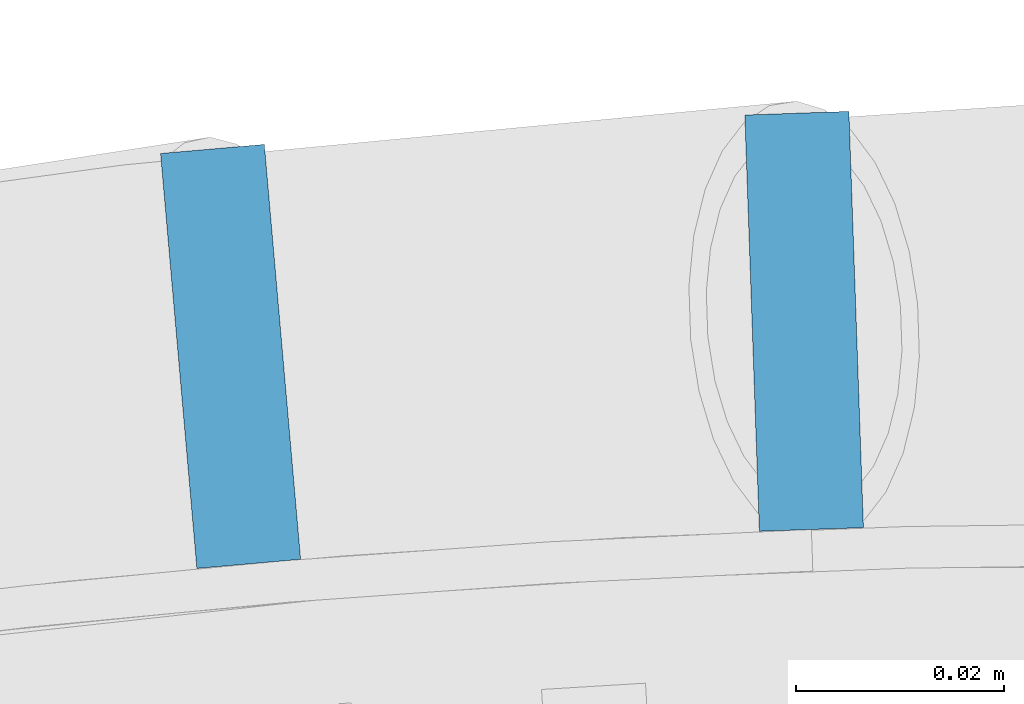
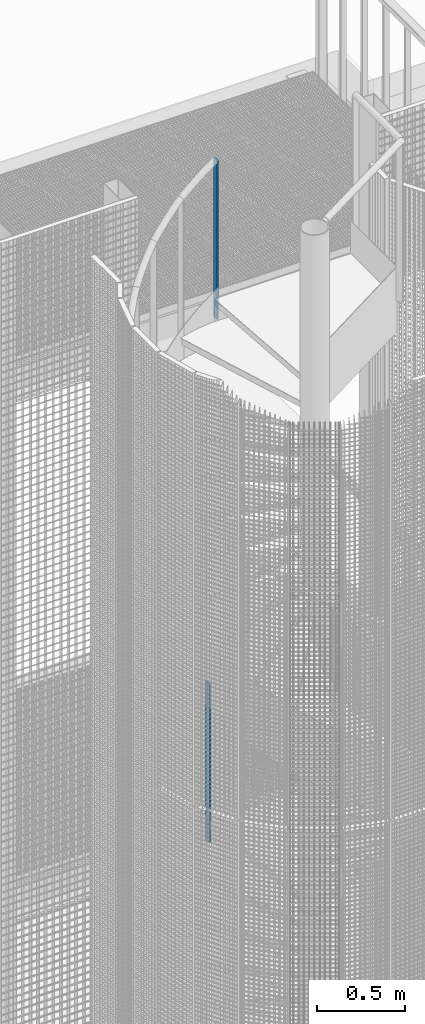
# One storey, part 63 of 1148: 2 columns, 2 elements without a shape of their own.
"""IFC2X3 building model written with IfcOpenShell, lengths in millimetres."""

import ifcopenshell
import ifcopenshell.guid

model = None  # the IFC model being written
_history = None  # IfcOwnerHistory: only IFC2X3 demands one
_inside = {}  # id of a spatial element -> (the spatial element, [elements in it])
_under = {}  # id of a project, library or spatial element -> (it, [spatial elements below it])
_declared = {}  # id of a project -> (the project, [libraries it declares])
_typed = {}  # id of a type object -> (the type object, [elements of that type])
_made_of = {}  # id of a material, layer set ... -> (it, [elements and type objects made of it])


def new_model(schema):
    """Start an empty IFC model of exactly this schema.

    Asked for "IFC4X3", IfcOpenShell would pick the latest addendum, in which some entities
    have other attributes; the version numbers below select the first issue.
    IFC2X3 requires an IfcOwnerHistory on every rooted entity: one is made here for all.
    """
    global model, _history
    if schema == "IFC4X3":
        model = ifcopenshell.file(schema_version=(4, 3, 0, 0))
    else:
        model = ifcopenshell.file(schema=schema)
    _inside.clear()
    _under.clear()
    _declared.clear()
    _typed.clear()
    _made_of.clear()
    _history = None
    if model.schema == "IFC2X3":
        org = make("IfcOrganization", Name="unknown")
        user = make(
            "IfcPersonAndOrganization",
            ThePerson=make("IfcPerson", FamilyName="unknown"),
            TheOrganization=org,
        )
        app = make(
            "IfcApplication",
            ApplicationDeveloper=org,
            Version="unknown",
            ApplicationFullName="unknown",
            ApplicationIdentifier="unknown",
        )
        _history = make(
            "IfcOwnerHistory",
            OwningUser=user,
            OwningApplication=app,
            ChangeAction="ADDED",
            CreationDate=0,
        )
    return model


def make(cls, **values):
    """One entity of the class cls with the attributes given. An attribute that is None is left unset."""
    return model.create_entity(
        cls, **{name: value for name, value in values.items() if value is not None}
    )


def rooted(cls, **values):
    """An entity with a GlobalId (a new one), such as an element, a storey or a relation."""
    return make(cls, GlobalId=ifcopenshell.guid.new(), OwnerHistory=_history, **values)


def si_unit(unit_type, name, prefix=None):
    """IfcSIUnit, for example si_unit("LENGTHUNIT", "METRE", prefix="MILLI")."""
    return make("IfcSIUnit", UnitType=unit_type, Prefix=prefix, Name=name)


def assignment(units):
    """IfcUnitAssignment: the units of a project."""
    return None if units is None else make("IfcUnitAssignment", Units=units)


def point(xyz):
    """IfcCartesianPoint."""
    return None if xyz is None else make("IfcCartesianPoint", Coordinates=xyz)


def direction(xyz):
    """IfcDirection."""
    return None if xyz is None else make("IfcDirection", DirectionRatios=xyz)


def frame(location, z_axis=None, x_axis=None):
    """IfcAxis2Placement3D, a coordinate frame: its origin and axes. An axis left out is left unset."""
    return make(
        "IfcAxis2Placement3D",
        Location=point(location),
        Axis=direction(z_axis),
        RefDirection=direction(x_axis),
    )


def frame_2d(location, x_axis=None):
    """IfcAxis2Placement2D, a coordinate frame in the plane: its origin and x axis."""
    return make(
        "IfcAxis2Placement2D", Location=point(location), RefDirection=direction(x_axis)
    )


def origin_with_axes():
    """The frame at (0, 0, 0) with the z axis (0, 0, 1) and the x axis (1, 0, 0) written out."""
    return frame((0.0, 0.0, 0.0), z_axis=(0.0, 0.0, 1.0), x_axis=(1.0, 0.0, 0.0))


def origin_2d_with_axis():
    """The frame at (0, 0) in the plane with the x axis (1, 0) written out."""
    return frame_2d((0.0, 0.0), x_axis=(1.0, 0.0))


def place(relative_to, where):
    """IfcLocalPlacement: puts the frame where relative to a parent placement (None: the world)."""
    return make(
        "IfcLocalPlacement", PlacementRelTo=relative_to, RelativePlacement=where
    )


def context(
    kind, dimensions, precision=None, world=None, true_north=None, identifier=None
):
    """IfcGeometricRepresentationContext, for example the 3D "Model" context."""
    return make(
        "IfcGeometricRepresentationContext",
        ContextIdentifier=identifier,
        ContextType=kind,
        CoordinateSpaceDimension=dimensions,
        Precision=precision,
        WorldCoordinateSystem=world,
        TrueNorth=true_north,
    )


def subcontext(parent, identifier, kind, view, scale=None):
    """IfcGeometricRepresentationSubContext, for example "Body" below "Model"."""
    return make(
        "IfcGeometricRepresentationSubContext",
        ContextIdentifier=identifier,
        ContextType=kind,
        ParentContext=parent,
        TargetScale=scale,
        TargetView=view,
    )


def project(units=None, contexts=None):
    """IfcProject with its units and contexts."""
    return rooted(
        "IfcProject",
        Name="project",
        RepresentationContexts=contexts,
        UnitsInContext=assignment(units),
    )


def spatial(cls, under=None, at=None, **own):
    """A site, building, storey or space (cls), placed at a placement, below another one or the project."""
    s = rooted(cls, ObjectPlacement=at, **own)
    if under is not None:
        _under.setdefault(under.id(), (under, []))[1].append(s)
    return s


def profile(cls, at=None, kind="AREA", **sizes):
    """A parametric profile (cls). Its sizes go by their IFC names, for example OverallWidth=200.0."""
    return make(cls, ProfileType=kind, Position=at, **sizes)


def rectangle(**sizes):
    """IfcRectangleProfileDef."""
    return profile("IfcRectangleProfileDef", **sizes)


def extrude(swept, where, along, depth):
    """IfcExtrudedAreaSolid: the profile swept, set in the frame where, extruded along a direction by depth."""
    return make(
        "IfcExtrudedAreaSolid",
        SweptArea=swept,
        Position=where,
        ExtrudedDirection=direction(along),
        Depth=depth,
    )


def shape(context_of_items, identifier, shape_type, items):
    """IfcShapeRepresentation: the items that make up one representation, for example the "Body"."""
    return make(
        "IfcShapeRepresentation",
        ContextOfItems=context_of_items,
        RepresentationIdentifier=identifier,
        RepresentationType=shape_type,
        Items=items,
    )


def material(Name=None, Category=None):
    """IfcMaterial."""
    return make("IfcMaterial", Name=Name, Category=Category)


def made_of(thing, what):
    """Note that an element or type object is made of a material, layer set ...; save() writes the relation."""
    if what is not None:
        _made_of.setdefault(what.id(), (what, []))[1].append(thing)
    return thing


def type_object(cls, material=None, **own):
    """A type object (cls), such as IfcWallType, which elements share."""
    return made_of(rooted(cls, **own), material)


def element(
    cls,
    number,
    at=None,
    inside=None,
    cuts=None,
    type_object=None,
    material=None,
    context=None,
    identifier="Body",
    shape_type=None,
    held_by="IfcProductDefinitionShape",
    body=None,
    shapes=None,
    **own,
):
    """One element of the class cls, such as IfcWall. Its Tag is "e" and its number.

    at: its placement. inside: the storey or other place that contains it. cuts: it is an
    opening in that element (IfcRelVoidsElement). A single representation is given by context,
    identifier, shape_type and body (its items); several are given by shapes. held_by: the class
    of the entity that holds the representations. save() writes the other relations.
    """
    e = rooted(cls, Tag="e%d" % number, ObjectPlacement=at, **own)
    if body is not None:
        shapes = [shape(context, identifier, shape_type, body)]
    if shapes is not None:
        e.Representation = make(held_by, Representations=shapes)
    if inside is not None:
        _inside.setdefault(inside.id(), (inside, []))[1].append(e)
    if cuts is not None:
        rooted(
            "IfcRelVoidsElement", RelatingBuildingElement=cuts, RelatedOpeningElement=e
        )
    if type_object is not None:
        _typed.setdefault(type_object.id(), (type_object, []))[1].append(e)
    return made_of(e, material)


def aggregate(whole, parts):
    """IfcRelAggregates: a whole, such as a stair, and the parts it consists of."""
    return rooted("IfcRelAggregates", RelatingObject=whole, RelatedObjects=parts)


def save(model, path):
    """Write the relations noted so far, then the file.

    IfcRelAggregates (storeys below a building ...), IfcRelContainedInSpatialStructure (elements
    in a storey), IfcRelDefinesByType, IfcRelAssociatesMaterial and IfcRelDeclares: one each for
    every whole, place, type object, material and project.
    """
    for whole, parts in _under.values():
        aggregate(whole, parts)
    for where, things in _inside.values():
        rooted(
            "IfcRelContainedInSpatialStructure",
            RelatedElements=things,
            RelatingStructure=where,
        )
    for kind, things in _typed.values():
        rooted("IfcRelDefinesByType", RelatedObjects=things, RelatingType=kind)
    for what, things in _made_of.values():
        rooted("IfcRelAssociatesMaterial", RelatedObjects=things, RelatingMaterial=what)
    for by, libraries in _declared.values():
        rooted("IfcRelDeclares", RelatingContext=by, RelatedDefinitions=libraries)
    model.write(path)


model = new_model("IFC2X3")

# Units and contexts
model_context = context("Model", 3, precision=1e-05, world=origin_with_axes())
body_context = subcontext(model_context, "Body", "Model", "MODEL_VIEW")
ifc_project = project(units=[si_unit("LENGTHUNIT", "METRE", prefix="MILLI"), si_unit("AREAUNIT", "SQUARE_METRE"), si_unit("VOLUMEUNIT", "CUBIC_METRE"), si_unit("MASSUNIT", "GRAM", prefix="KILO"), si_unit("TIMEUNIT", "SECOND"), si_unit("PLANEANGLEUNIT", "RADIAN"), si_unit("SOLIDANGLEUNIT", "STERADIAN"), si_unit("THERMODYNAMICTEMPERATUREUNIT", "DEGREE_CELSIUS"), si_unit("LUMINOUSINTENSITYUNIT", "LUMEN")], contexts=[model_context])

# Site, building, storey
site_placement = place(None, origin_with_axes())
site = spatial("IfcSite", under=ifc_project, at=site_placement, Name="Undefined", CompositionType="ELEMENT")
building_placement = place(site_placement, origin_with_axes())
building = spatial("IfcBuilding", under=site, at=building_placement, Name="Undefined", CompositionType="ELEMENT")
storey_placement = place(building_placement, origin_with_axes())
storey = spatial("IfcBuildingStorey", under=building, at=storey_placement, Name="Undefined", CompositionType="ELEMENT", Elevation=0.0)

# Assembly, column
assembly_1_placement = place(storey_placement, origin_with_axes())
assembly_1 = element("IfcElementAssembly", 1, at=assembly_1_placement, inside=storey, Name="MONTANT", AssemblyPlace="NOTDEFINED", PredefinedType="NOTDEFINED")
ifc_material = material(Name="STEEL/S235JR")
column_type = type_object("IfcColumnType", Name="PL10*40", PredefinedType="NOTDEFINED")
column_1_placement = place(assembly_1_placement, frame((21563.2159304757, 1053.35793167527, 17133.44), z_axis=(0.0, 0.0, 1.0), x_axis=(0.0348994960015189, -0.999390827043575, 0.0)))
column_1 = element("IfcColumn", 2, at=column_1_placement, type_object=column_type, material=ifc_material, Name="MONTANT", context=body_context, shape_type="SweptSolid", body=[
    extrude(rectangle(XDim=10.0, YDim=40.0, at=origin_2d_with_axis()), frame((0.0, 0.0, 1100.0), z_axis=(0.0, 0.0, -1.0), x_axis=(0.0, 1.0, 0.0)), (0.0, 0.0, 1.0), 1100.0),
])
aggregate(assembly_1, [column_1])

assembly_2_placement = place(storey_placement, origin_with_axes())
assembly_2 = element("IfcElementAssembly", 3, at=assembly_2_placement, inside=storey, Name="MONTANT", AssemblyPlace="NOTDEFINED", PredefinedType="NOTDEFINED")
column_2_placement = place(assembly_2_placement, frame((21508.1378471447, 1049.98921178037, 13533.44), z_axis=(0.0, 0.0, 1.0), x_axis=(0.0871557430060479, -0.996194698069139, 0.0)))
column_2 = element("IfcColumn", 4, at=column_2_placement, type_object=column_type, material=ifc_material, Name="MONTANT", context=body_context, shape_type="SweptSolid", body=[
    extrude(rectangle(XDim=10.0, YDim=40.0, at=origin_2d_with_axis()), frame((0.0, 0.0, 1100.0), z_axis=(0.0, 0.0, -1.0), x_axis=(0.0, 1.0, 0.0)), (0.0, 0.0, 1.0), 1100.0),
])
aggregate(assembly_2, [column_2])

save(model, "model.ifc")
